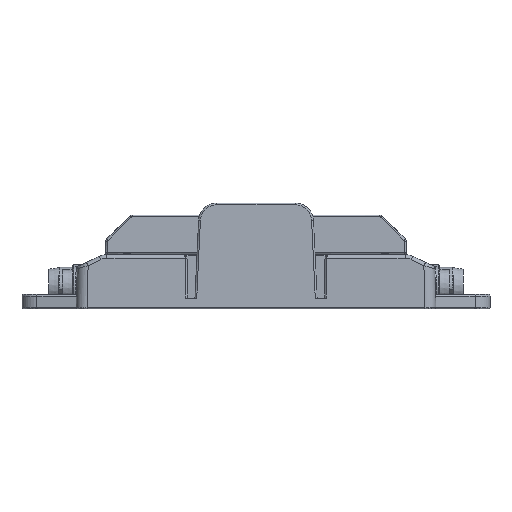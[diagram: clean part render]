
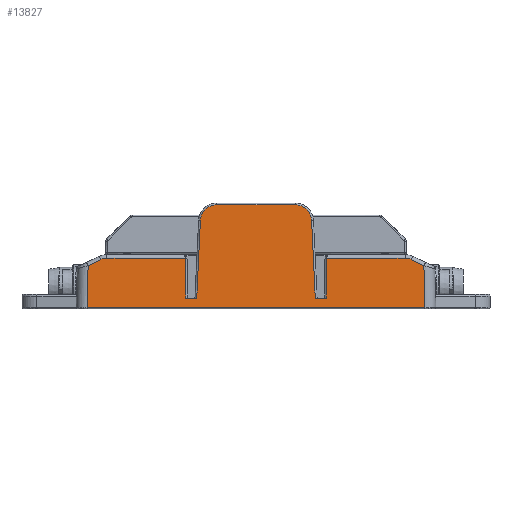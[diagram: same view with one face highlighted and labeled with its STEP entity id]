
A CAD part, front view. The second image highlights one B-rep face of the part: STEP entity #13827.
In plain terms, the highlighted planar face has unit normal (0, -1, 0.024).
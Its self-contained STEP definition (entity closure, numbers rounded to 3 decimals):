
#4328=B_SPLINE_CURVE_WITH_KNOTS('',3,(#54920,#54921,#54922,#54923,#54924,
#54925),.UNSPECIFIED.,.F.,.F.,(4,2,4),(0.,0.5,1.),.UNSPECIFIED.);
#4330=B_SPLINE_CURVE_WITH_KNOTS('',3,(#54959,#54960,#54961,#54962,#54963,
#54964),.UNSPECIFIED.,.F.,.F.,(4,2,4),(0.,0.5,1.),.UNSPECIFIED.);
#5926=PLANE('',#41115);
#7073=FACE_OUTER_BOUND('',#17648,.T.);
#8684=LINE('',#54772,#11126);
#8709=LINE('',#54889,#11151);
#8715=LINE('',#54908,#11157);
#8718=LINE('',#54915,#11160);
#8719=LINE('',#54953,#11161);
#8721=LINE('',#54989,#11163);
#8727=LINE('',#55006,#11169);
#8729=LINE('',#55016,#11171);
#8731=LINE('',#55031,#11173);
#8734=LINE('',#55042,#11176);
#8740=LINE('',#55073,#11182);
#8747=LINE('',#55094,#11189);
#8750=LINE('',#55119,#11192);
#9135=LINE('',#57774,#11577);
#11126=VECTOR('',#44599,1.);
#11151=VECTOR('',#44652,1.);
#11157=VECTOR('',#44666,1.);
#11160=VECTOR('',#44673,1.);
#11161=VECTOR('',#44680,1.);
#11163=VECTOR('',#44686,1.);
#11169=VECTOR('',#44698,1.);
#11171=VECTOR('',#44704,1.);
#11173=VECTOR('',#44716,1.);
#11176=VECTOR('',#44725,1.);
#11182=VECTOR('',#44739,1.);
#11189=VECTOR('',#44756,1.);
#11192=VECTOR('',#44761,1.);
#11577=VECTOR('',#46272,1.);
#13827=ADVANCED_FACE('',(#7073),#5926,.T.);
#16337=ELLIPSE('',#40515,0.5,0.5);
#16344=ELLIPSE('',#40534,0.5,0.5);
#16345=ELLIPSE('',#40536,4.001,4.);
#16370=ELLIPSE('',#41114,4.001,4.);
#17648=EDGE_LOOP('',(#22084,#22085,#22086,#22087,#22088,#22089,#22090,#22091,
#22092,#22093,#22094,#22095,#22096,#22097,#22098,#22099,#22100,#22101,#22102,
#22103));
#22084=ORIENTED_EDGE('',*,*,#34883,.T.);
#22085=ORIENTED_EDGE('',*,*,#34068,.T.);
#22086=ORIENTED_EDGE('',*,*,#34070,.T.);
#22087=ORIENTED_EDGE('',*,*,#34079,.F.);
#22088=ORIENTED_EDGE('',*,*,#34083,.T.);
#22089=ORIENTED_EDGE('',*,*,#34085,.T.);
#22090=ORIENTED_EDGE('',*,*,#34088,.T.);
#22091=ORIENTED_EDGE('',*,*,#34091,.T.);
#22092=ORIENTED_EDGE('',*,*,#34093,.T.);
#22093=ORIENTED_EDGE('',*,*,#34101,.F.);
#22094=ORIENTED_EDGE('',*,*,#34105,.F.);
#22095=ORIENTED_EDGE('',*,*,#34108,.T.);
#22096=ORIENTED_EDGE('',*,*,#34031,.T.);
#22097=ORIENTED_EDGE('',*,*,#34110,.T.);
#22098=ORIENTED_EDGE('',*,*,#34111,.T.);
#22099=ORIENTED_EDGE('',*,*,#34116,.T.);
#22100=ORIENTED_EDGE('',*,*,#34126,.T.);
#22101=ORIENTED_EDGE('',*,*,#34137,.T.);
#22102=ORIENTED_EDGE('',*,*,#34142,.T.);
#22103=ORIENTED_EDGE('',*,*,#34884,.T.);
#30412=VERTEX_POINT('',#54771);
#30413=VERTEX_POINT('',#54773);
#30440=VERTEX_POINT('',#54882);
#30441=VERTEX_POINT('',#54884);
#30442=VERTEX_POINT('',#54890);
#30450=VERTEX_POINT('',#54907);
#30452=VERTEX_POINT('',#54914);
#30454=VERTEX_POINT('',#54919);
#30456=VERTEX_POINT('',#54952);
#30458=VERTEX_POINT('',#54958);
#30459=VERTEX_POINT('',#54990);
#30466=VERTEX_POINT('',#55005);
#30468=VERTEX_POINT('',#55015);
#30469=VERTEX_POINT('',#55028);
#30470=VERTEX_POINT('',#55032);
#30474=VERTEX_POINT('',#55041);
#30483=VERTEX_POINT('',#55072);
#30493=VERTEX_POINT('',#55095);
#30497=VERTEX_POINT('',#55118);
#30915=VERTEX_POINT('',#57775);
#34031=EDGE_CURVE('',#30413,#30412,#8684,.T.);
#34068=EDGE_CURVE('',#30441,#30440,#16337,.T.);
#34070=EDGE_CURVE('',#30440,#30442,#8709,.T.);
#34079=EDGE_CURVE('',#30450,#30442,#8715,.T.);
#34083=EDGE_CURVE('',#30450,#30452,#8718,.T.);
#34085=EDGE_CURVE('',#30452,#30454,#4328,.T.);
#34088=EDGE_CURVE('',#30454,#30456,#8719,.T.);
#34091=EDGE_CURVE('',#30456,#30458,#4330,.T.);
#34093=EDGE_CURVE('',#30458,#30459,#8721,.T.);
#34101=EDGE_CURVE('',#30466,#30459,#8727,.T.);
#34105=EDGE_CURVE('',#30468,#30466,#8729,.T.);
#34108=EDGE_CURVE('',#30468,#30413,#16344,.T.);
#34110=EDGE_CURVE('',#30412,#30469,#16345,.T.);
#34111=EDGE_CURVE('',#30469,#30470,#8731,.T.);
#34116=EDGE_CURVE('',#30470,#30474,#8734,.T.);
#34126=EDGE_CURVE('',#30474,#30483,#8740,.T.);
#34137=EDGE_CURVE('',#30483,#30493,#8747,.T.);
#34142=EDGE_CURVE('',#30493,#30497,#8750,.T.);
#34883=EDGE_CURVE('',#30915,#30441,#9135,.T.);
#34884=EDGE_CURVE('',#30497,#30915,#16370,.T.);
#40515=AXIS2_PLACEMENT_3D('',#54883,#44648,#44649);
#40534=AXIS2_PLACEMENT_3D('',#55022,#44708,#44709);
#40536=AXIS2_PLACEMENT_3D('',#55029,#44712,#44713);
#41114=AXIS2_PLACEMENT_3D('',#57776,#46273,#46274);
#41115=AXIS2_PLACEMENT_3D('',#57777,#46275,#46276);
#44599=DIRECTION('',(-1.,0.,0.));
#44648=DIRECTION('',(0.,-1.,0.024));
#44649=DIRECTION('',(0.,-0.024,-1.));
#44652=DIRECTION('',(-0.009,-0.024,-1.));
#44666=DIRECTION('',(1.,0.,0.));
#44673=DIRECTION('',(-0.047,0.024,0.999));
#44680=DIRECTION('',(-1.,0.,0.));
#44686=DIRECTION('',(-0.047,-0.024,-0.999));
#44698=DIRECTION('',(1.,0.,0.));
#44704=DIRECTION('',(0.009,-0.024,-1.));
#44708=DIRECTION('',(0.,-1.,0.024));
#44709=DIRECTION('',(0.,-0.024,-1.));
#44712=DIRECTION('',(0.,-1.,0.024));
#44713=DIRECTION('',(0.,-0.024,-1.));
#44716=DIRECTION('',(-0.906,-0.01,-0.423));
#44725=DIRECTION('',(-0.026,-0.024,-0.999));
#44739=DIRECTION('',(1.,0.,0.));
#44756=DIRECTION('',(-0.026,0.024,0.999));
#44761=DIRECTION('',(-0.906,0.01,0.423));
#46272=DIRECTION('',(-1.,0.,0.));
#46273=DIRECTION('',(0.,-1.,0.024));
#46274=DIRECTION('',(0.,-0.024,-1.));
#46275=DIRECTION('',(0.,-1.,0.024));
#46276=DIRECTION('',(0.,-0.024,-1.));
#54771=CARTESIAN_POINT('',(-41.278,0.337,13.724));
#54772=CARTESIAN_POINT('',(-77.,0.337,13.724));
#54773=CARTESIAN_POINT('',(-19.613,0.337,13.724));
#54882=CARTESIAN_POINT('',(19.613,0.337,13.716));
#54883=CARTESIAN_POINT('',(20.113,0.337,13.712));
#54884=CARTESIAN_POINT('',(19.613,0.337,13.724));
#54889=CARTESIAN_POINT('',(19.514,0.063,2.388));
#54890=CARTESIAN_POINT('',(19.516,0.071,2.7));
#54907=CARTESIAN_POINT('',(16.42,0.071,2.7));
#54908=CARTESIAN_POINT('',(49.,0.071,2.7));
#54914=CARTESIAN_POINT('',(15.397,0.591,24.226));
#54915=CARTESIAN_POINT('',(16.967,-0.207,-8.796));
#54919=CARTESIAN_POINT('',(10.902,0.694,28.512));
#54920=CARTESIAN_POINT('',(15.397,0.591,24.226));
#54921=CARTESIAN_POINT('',(15.343,0.618,25.37));
#54922=CARTESIAN_POINT('',(14.836,0.645,26.479));
#54923=CARTESIAN_POINT('',(13.179,0.683,28.059));
#54924=CARTESIAN_POINT('',(12.049,0.694,28.512));
#54925=CARTESIAN_POINT('',(10.902,0.694,28.512));
#54952=CARTESIAN_POINT('',(-10.902,0.694,28.512));
#54953=CARTESIAN_POINT('',(49.,0.694,28.512));
#54958=CARTESIAN_POINT('',(-15.397,0.591,24.226));
#54959=CARTESIAN_POINT('',(-10.902,0.694,28.512));
#54960=CARTESIAN_POINT('',(-12.047,0.694,28.512));
#54961=CARTESIAN_POINT('',(-13.179,0.683,28.058));
#54962=CARTESIAN_POINT('',(-14.836,0.645,26.479));
#54963=CARTESIAN_POINT('',(-15.342,0.618,25.371));
#54964=CARTESIAN_POINT('',(-15.397,0.591,24.226));
#54989=CARTESIAN_POINT('',(-16.746,-0.095,-4.15));
#54990=CARTESIAN_POINT('',(-16.42,0.071,2.7));
#55005=CARTESIAN_POINT('',(-19.516,0.071,2.7));
#55006=CARTESIAN_POINT('',(49.,0.071,2.7));
#55015=CARTESIAN_POINT('',(-19.613,0.337,13.716));
#55016=CARTESIAN_POINT('',(-19.424,-0.185,-7.871));
#55022=CARTESIAN_POINT('',(-20.113,0.337,13.712));
#55028=CARTESIAN_POINT('',(-42.968,0.328,13.349));
#55029=CARTESIAN_POINT('',(-41.278,0.24,9.724));
#55031=CARTESIAN_POINT('',(24.663,1.09,44.886));
#55032=CARTESIAN_POINT('',(-46.503,0.288,11.701));
#55041=CARTESIAN_POINT('',(-46.81,0.005,0.));
#55042=CARTESIAN_POINT('',(-46.934,-0.11,-4.764));
#55072=CARTESIAN_POINT('',(46.81,0.005,0.));
#55073=CARTESIAN_POINT('',(49.,0.005,0.));
#55094=CARTESIAN_POINT('',(47.002,-0.172,-7.327));
#55095=CARTESIAN_POINT('',(46.503,0.288,11.701));
#55118=CARTESIAN_POINT('',(42.968,0.328,13.349));
#55119=CARTESIAN_POINT('',(55.825,0.183,7.354));
#57774=CARTESIAN_POINT('',(-77.,0.337,13.724));
#57775=CARTESIAN_POINT('',(41.278,0.337,13.724));
#57776=CARTESIAN_POINT('',(41.278,0.24,9.724));
#57777=CARTESIAN_POINT('',(49.,-0.17,-7.274));
